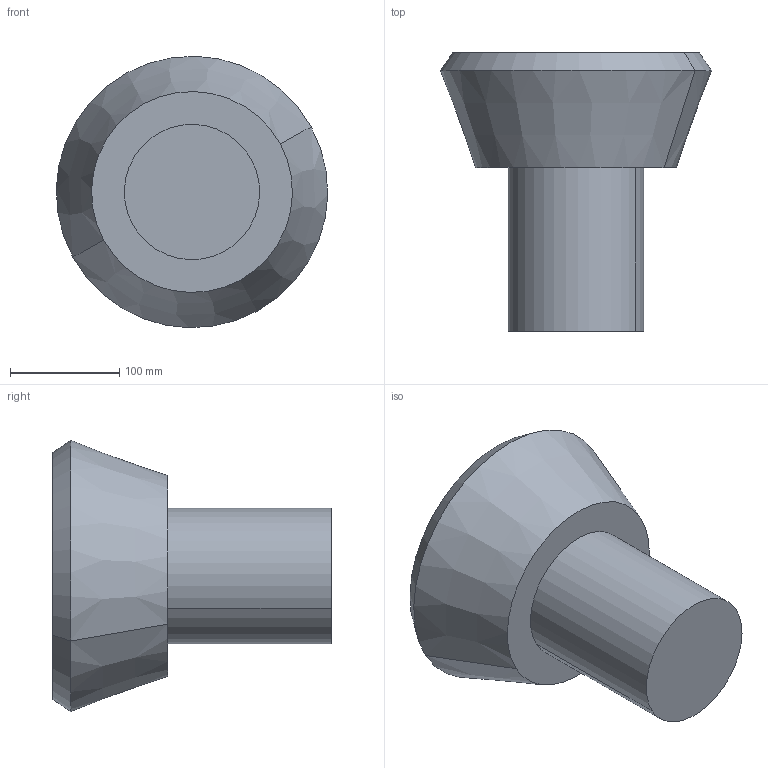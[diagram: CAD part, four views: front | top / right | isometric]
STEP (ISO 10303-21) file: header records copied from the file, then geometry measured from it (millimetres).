
FILE_DESCRIPTION(('CATIA V5 STEP Exchange'),'2;1');
FILE_NAME('C:\_Andres\UNIVERSIDAD\IQS\ASIGNATURAS\DAO\EXF\EXF-15161c\1original\Aranda_Gil_Ej09-optimiza_v2.stp','2016-03-04T21:55:27+00:00',('none'),('none'),'CATIA Version 5 Release 20 SP 1 (IN-10)','CATIA V5 STEP AP203','none');
FILE_SCHEMA(('CONFIG_CONTROL_DESIGN'));
Length unit declared in the file: millimetre
Products named in the file (1): Aranda_Gil_Ej09-optimiza_v2
Bounding box: 248.62 x 255.25 x 248.62 mm (x, y, z)
Volume: 5808141.3 mm3; surface area: 208623.6 mm2
Topology: 1 solids, 2 shells, 13 faces, 22 edges, 14 vertices
Faces by surface type: plane 5, cylinder 4, cone 4
Entity records: 324 total; most frequent: CARTESIAN_POINT 47, ORIENTED_EDGE 44, DIRECTION 42, AXIS2_PLACEMENT_3D 25, EDGE_CURVE 22, CIRCLE 14, EDGE_LOOP 14, VERTEX_POINT 14
